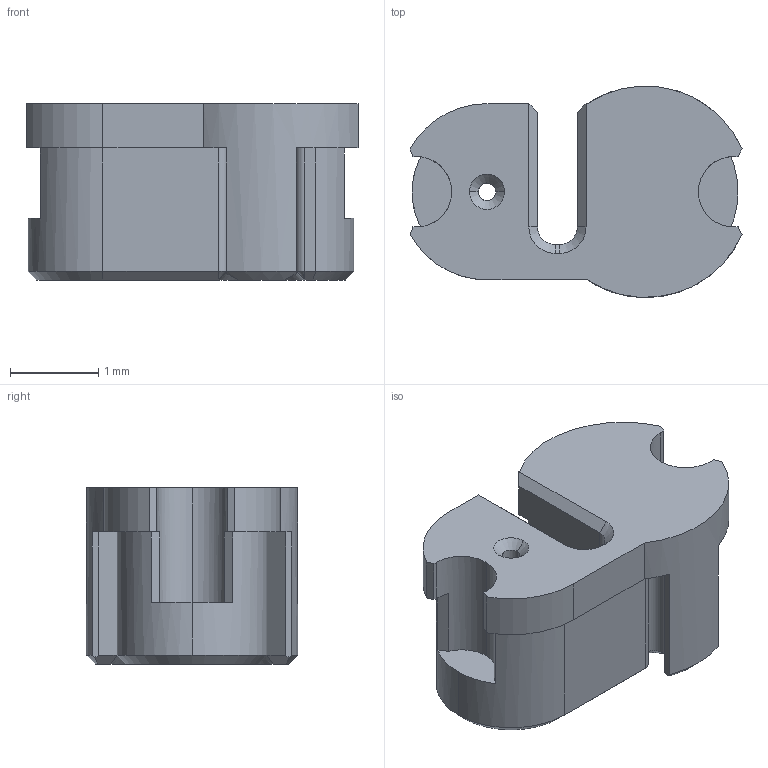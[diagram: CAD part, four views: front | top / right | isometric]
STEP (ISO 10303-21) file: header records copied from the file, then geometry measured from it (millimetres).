
FILE_DESCRIPTION (( 'STEP AP214' ), '1' );
FILE_NAME ('TRL-0048-CTR-A.STEP', '2021-06-25T20:34:18', ( '' ), ( '' ), 'SwSTEP 2.0', 'SolidWorks 2016', '' );
FILE_SCHEMA (( 'AUTOMOTIVE_DESIGN' ));
Length unit declared in the file: millimetre
Products named in the file (1): TRL-0048-CTR-A
Bounding box: 3.77 x 2.4 x 2 mm (x, y, z)
Volume: 10.2 mm3; surface area: 45.3 mm2
Topology: 1 solids, 1 shells, 117 faces, 320 edges, 201 vertices
Faces by surface type: plane 61, cylinder 24, cone 21, bspline 11
Entity records: 4494 total; most frequent: CARTESIAN_POINT 1584, ORIENTED_EDGE 632, DIRECTION 568, EDGE_CURVE 316, VERTEX_POINT 201, AXIS2_PLACEMENT_3D 192, VECTOR 184, LINE 184
